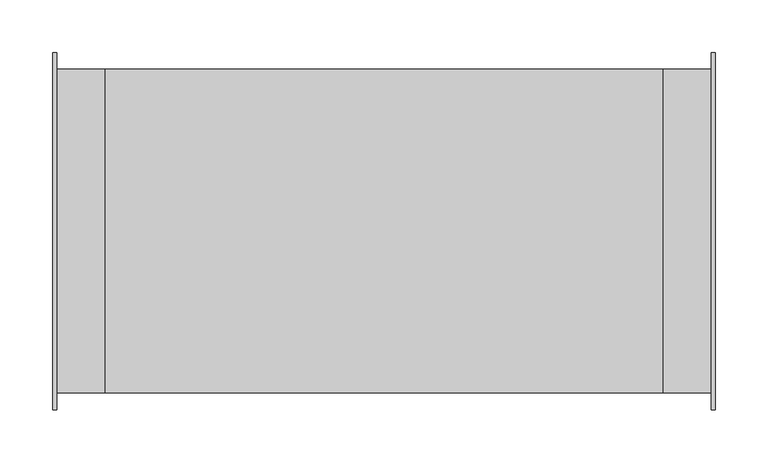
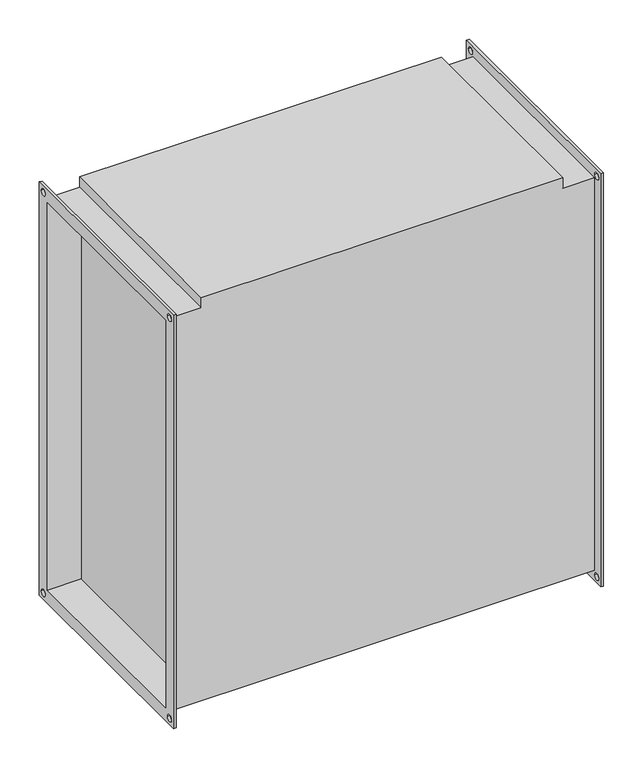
"""IFC4 building model written with IfcOpenShell, lengths in millimetres: proxy geometry, СВ_ВоздухонагревательЭлектрический_КанальныйПрямоугольный_200-1000_SPH-E : SPH-E-600x300/30."""

import ifcopenshell
import ifcopenshell.guid

model = None  # the IFC model being written
_history = None  # IfcOwnerHistory: only IFC2X3 demands one
_inside = {}  # id of a spatial element -> (the spatial element, [elements in it])
_under = {}  # id of a project, library or spatial element -> (it, [spatial elements below it])
_declared = {}  # id of a project -> (the project, [libraries it declares])
_typed = {}  # id of a type object -> (the type object, [elements of that type])
_made_of = {}  # id of a material, layer set ... -> (it, [elements and type objects made of it])


def new_model(schema):
    """Start an empty IFC model of exactly this schema.

    Asked for "IFC4X3", IfcOpenShell would pick the latest addendum, in which some entities
    have other attributes; the version numbers below select the first issue.
    IFC2X3 requires an IfcOwnerHistory on every rooted entity: one is made here for all.
    """
    global model, _history
    if schema == "IFC4X3":
        model = ifcopenshell.file(schema_version=(4, 3, 0, 0))
    else:
        model = ifcopenshell.file(schema=schema)
    _inside.clear()
    _under.clear()
    _declared.clear()
    _typed.clear()
    _made_of.clear()
    _history = None
    if model.schema == "IFC2X3":
        org = make("IfcOrganization", Name="unknown")
        user = make(
            "IfcPersonAndOrganization",
            ThePerson=make("IfcPerson", FamilyName="unknown"),
            TheOrganization=org,
        )
        app = make(
            "IfcApplication",
            ApplicationDeveloper=org,
            Version="unknown",
            ApplicationFullName="unknown",
            ApplicationIdentifier="unknown",
        )
        _history = make(
            "IfcOwnerHistory",
            OwningUser=user,
            OwningApplication=app,
            ChangeAction="ADDED",
            CreationDate=0,
        )
    return model


def make(cls, **values):
    """One entity of the class cls with the attributes given. An attribute that is None is left unset."""
    return model.create_entity(
        cls, **{name: value for name, value in values.items() if value is not None}
    )


def rooted(cls, **values):
    """An entity with a GlobalId (a new one), such as an element, a storey or a relation."""
    return make(cls, GlobalId=ifcopenshell.guid.new(), OwnerHistory=_history, **values)


def si_unit(unit_type, name, prefix=None):
    """IfcSIUnit, for example si_unit("LENGTHUNIT", "METRE", prefix="MILLI")."""
    return make("IfcSIUnit", UnitType=unit_type, Prefix=prefix, Name=name)


def assignment(units):
    """IfcUnitAssignment: the units of a project."""
    return None if units is None else make("IfcUnitAssignment", Units=units)


def point(xyz):
    """IfcCartesianPoint."""
    return None if xyz is None else make("IfcCartesianPoint", Coordinates=xyz)


def direction(xyz):
    """IfcDirection."""
    return None if xyz is None else make("IfcDirection", DirectionRatios=xyz)


def frame(location, z_axis=None, x_axis=None):
    """IfcAxis2Placement3D, a coordinate frame: its origin and axes. An axis left out is left unset."""
    return make(
        "IfcAxis2Placement3D",
        Location=point(location),
        Axis=direction(z_axis),
        RefDirection=direction(x_axis),
    )


def origin():
    """The frame at (0, 0, 0) with its axes left unset."""
    return frame((0.0, 0.0, 0.0))


def place(relative_to, where):
    """IfcLocalPlacement: puts the frame where relative to a parent placement (None: the world)."""
    return make(
        "IfcLocalPlacement", PlacementRelTo=relative_to, RelativePlacement=where
    )


def context(
    kind, dimensions, precision=None, world=None, true_north=None, identifier=None
):
    """IfcGeometricRepresentationContext, for example the 3D "Model" context."""
    return make(
        "IfcGeometricRepresentationContext",
        ContextIdentifier=identifier,
        ContextType=kind,
        CoordinateSpaceDimension=dimensions,
        Precision=precision,
        WorldCoordinateSystem=world,
        TrueNorth=true_north,
    )


def project(units=None, contexts=None):
    """IfcProject with its units and contexts."""
    return rooted(
        "IfcProject",
        Name="project",
        RepresentationContexts=contexts,
        UnitsInContext=assignment(units),
    )


def spatial(cls, under=None, at=None, **own):
    """A site, building, storey or space (cls), placed at a placement, below another one or the project."""
    s = rooted(cls, ObjectPlacement=at, **own)
    if under is not None:
        _under.setdefault(under.id(), (under, []))[1].append(s)
    return s


def polyline(points):
    """IfcPolyline through the points."""
    return make("IfcPolyline", Points=[point(p) for p in points])


def circle_curve(where, radius):
    """IfcCircle in the frame where."""
    return make("IfcCircle", Position=where, Radius=radius)


def shape(context_of_items, identifier, shape_type, items):
    """IfcShapeRepresentation: the items that make up one representation, for example the "Body"."""
    return make(
        "IfcShapeRepresentation",
        ContextOfItems=context_of_items,
        RepresentationIdentifier=identifier,
        RepresentationType=shape_type,
        Items=items,
    )


def source(mapping_origin, context_of_items, identifier, shape_type, items):
    """IfcRepresentationMap: a shape defined once, which mapped items show again and again."""
    return make(
        "IfcRepresentationMap",
        MappingOrigin=mapping_origin,
        MappedRepresentation=shape(context_of_items, identifier, shape_type, items),
    )


def transform(
    local_origin,
    x_axis=None,
    y_axis=None,
    z_axis=None,
    scale=None,
    scale2=None,
    scale3=None,
    uniform=True,
):
    """IfcCartesianTransformationOperator3D, or its non-uniform kind. x_axis, y_axis, z_axis: its Axis1, 2, 3."""
    if uniform:
        return make(
            "IfcCartesianTransformationOperator3D",
            Axis1=direction(x_axis),
            Axis2=direction(y_axis),
            LocalOrigin=point(local_origin),
            Scale=scale,
            Axis3=direction(z_axis),
        )
    return make(
        "IfcCartesianTransformationOperator3DnonUniform",
        Axis1=direction(x_axis),
        Axis2=direction(y_axis),
        LocalOrigin=point(local_origin),
        Scale=scale,
        Axis3=direction(z_axis),
        Scale2=scale2,
        Scale3=scale3,
    )


def mapped(mapping_source, mapping_target):
    """IfcMappedItem: shows the shape of a source again, moved by a transform."""
    return make(
        "IfcMappedItem", MappingSource=mapping_source, MappingTarget=mapping_target
    )


def made_of(thing, what):
    """Note that an element or type object is made of a material, layer set ...; save() writes the relation."""
    if what is not None:
        _made_of.setdefault(what.id(), (what, []))[1].append(thing)
    return thing


def element(
    cls,
    number,
    at=None,
    inside=None,
    cuts=None,
    type_object=None,
    material=None,
    context=None,
    identifier="Body",
    shape_type=None,
    held_by="IfcProductDefinitionShape",
    body=None,
    shapes=None,
    **own,
):
    """One element of the class cls, such as IfcWall. Its Tag is "e" and its number.

    at: its placement. inside: the storey or other place that contains it. cuts: it is an
    opening in that element (IfcRelVoidsElement). A single representation is given by context,
    identifier, shape_type and body (its items); several are given by shapes. held_by: the class
    of the entity that holds the representations. save() writes the other relations.
    """
    e = rooted(cls, Tag="e%d" % number, ObjectPlacement=at, **own)
    if body is not None:
        shapes = [shape(context, identifier, shape_type, body)]
    if shapes is not None:
        e.Representation = make(held_by, Representations=shapes)
    if inside is not None:
        _inside.setdefault(inside.id(), (inside, []))[1].append(e)
    if cuts is not None:
        rooted(
            "IfcRelVoidsElement", RelatingBuildingElement=cuts, RelatedOpeningElement=e
        )
    if type_object is not None:
        _typed.setdefault(type_object.id(), (type_object, []))[1].append(e)
    return made_of(e, material)


def aggregate(whole, parts):
    """IfcRelAggregates: a whole, such as a stair, and the parts it consists of."""
    return rooted("IfcRelAggregates", RelatingObject=whole, RelatedObjects=parts)


def save(model, path):
    """Write the relations noted so far, then the file.

    IfcRelAggregates (storeys below a building ...), IfcRelContainedInSpatialStructure (elements
    in a storey), IfcRelDefinesByType, IfcRelAssociatesMaterial and IfcRelDeclares: one each for
    every whole, place, type object, material and project.
    """
    for whole, parts in _under.values():
        aggregate(whole, parts)
    for where, things in _inside.values():
        rooted(
            "IfcRelContainedInSpatialStructure",
            RelatedElements=things,
            RelatingStructure=where,
        )
    for kind, things in _typed.values():
        rooted("IfcRelDefinesByType", RelatedObjects=things, RelatingType=kind)
    for what, things in _made_of.values():
        rooted("IfcRelAssociatesMaterial", RelatedObjects=things, RelatingMaterial=what)
    for by, libraries in _declared.values():
        rooted("IfcRelDeclares", RelatingContext=by, RelatedDefinitions=libraries)
    model.write(path)


def plane_surface(at):
    """IfcPlane: the flat surface through the origin of the frame at, square to its z axis."""
    return make("IfcPlane", Position=at)


def revolved_surface(curve, axis_point, axis_direction):
    """IfcSurfaceOfRevolution: the curve turned about the line through axis_point along axis_direction."""
    return make(
        "IfcSurfaceOfRevolution",
        SweptCurve=make("IfcArbitraryOpenProfileDef", ProfileType="CURVE", Curve=curve),
        AxisPosition=make("IfcAxis1Placement", Location=point(axis_point), Axis=direction(axis_direction)),
    )


def advanced_brep(points, edges, surfaces, faces):
    """IfcAdvancedBrep: a solid bounded by faces that lie on surfaces and meet in shared edges.

    An edge is (start, end): straight between two places in points (the first is 0);
    or (start, end, curve); or (start, end, curve, False) where it runs against its curve.
    A face is (place in surfaces, loops), or (place, loops, False) where it looks against
    its surface's normal. A loop lists edges by number (the first is 1), with a minus sign
    where the edge is run from its end to its start. The first loop is the outer one.
    """
    corners = [point(p) for p in points]
    vertices = [make("IfcVertexPoint", VertexGeometry=c) for c in corners]
    made = []
    for start, end, *more in edges:
        made.append(
            make(
                "IfcEdgeCurve",
                EdgeStart=vertices[start],
                EdgeEnd=vertices[end],
                EdgeGeometry=more[0] if more else make("IfcPolyline", Points=[corners[start], corners[end]]),
                SameSense=more[1] if len(more) > 1 else True,
            )
        )
    hull = []
    for where, loops, *sense in faces:
        bounds = []
        for j, loop in enumerate(loops):
            ring = [make("IfcOrientedEdge", EdgeElement=made[abs(k) - 1], Orientation=k > 0) for k in loop]
            bounds.append(
                make(
                    "IfcFaceOuterBound" if j == 0 else "IfcFaceBound",
                    Bound=make("IfcEdgeLoop", EdgeList=ring),
                    Orientation=True,
                )
            )
        hull.append(make("IfcAdvancedFace", Bounds=bounds, FaceSurface=surfaces[where], SameSense=sense[0] if sense else True))
    return make("IfcAdvancedBrep", Outer=make("IfcClosedShell", CfsFaces=hull))


def mechanical_equipment_15b2c1e0(model_context):
    return source(origin(), model_context, "Body", "AdvancedBrep", [
        advanced_brep(
        [(-265.0, -154.0, 304.0), (-311.0, -154.0, 304.0), (-311.0, -154.0, -304.0), (311.0, -154.0, -304.0), (311.0, -154.0, 304.0), (265.0, -154.0, 304.0), (265.0, -154.0, 320.0), (-265.0, -154.0, 320.0), (-311.0, 154.0, -304.0), (311.0, 154.0, -304.0), (-311.0, 154.0, 304.0), (-265.0, 154.0, 304.0), (-265.0, 154.0, 320.0), (265.0, 154.0, 320.0), (265.0, 154.0, 304.0), (311.0, 154.0, 304.0), (265.0, 150.0, -300.0), (265.0, 150.0, 300.0), (265.0, -150.0, 300.0), (265.0, -150.0, -300.0), (-265.0, -150.0, 300.0), (-265.0, 150.0, 300.0), (-265.0, 150.0, -300.0), (-265.0, -150.0, -300.0), (-315.0, -170.0, 320.0), (-315.0, 170.0, 320.0), (-315.0, 170.0, -320.0), (-315.0, -170.0, -320.0), (-315.0, -150.0, 300.0), (-315.0, -150.0, -300.0), (-315.0, 150.0, -300.0), (-315.0, 150.0, 300.0), (-315.0, 155.0, 310.0), (-315.0, 165.0, 310.0), (-315.0, -165.0, 310.0), (-315.0, -155.0, 310.0), (-315.0, -165.0, -310.0), (-315.0, -155.0, -310.0), (-315.0, 155.0, -310.0), (-315.0, 165.0, -310.0), (-311.0, -170.0, 320.0), (-311.0, -170.0, -320.0), (-311.0, 170.0, -320.0), (-311.0, 170.0, 320.0), (-311.0, 165.0, 310.0), (-311.0, 155.0, 310.0), (-311.0, -155.0, 310.0), (-311.0, -165.0, 310.0), (-311.0, -155.0, -310.0), (-311.0, -165.0, -310.0), (-311.0, 165.0, -310.0), (-311.0, 155.0, -310.0), (311.0, 170.0, 320.0), (311.0, 170.0, -320.0), (311.0, -170.0, -320.0), (311.0, -170.0, 320.0), (311.0, 155.0, 310.0), (311.0, 165.0, 310.0), (311.0, -165.0, 310.0), (311.0, -155.0, 310.0), (311.0, -165.0, -310.0), (311.0, -155.0, -310.0), (311.0, 155.0, -310.0), (311.0, 165.0, -310.0), (315.0, 170.0, 320.0), (315.0, -170.0, 320.0), (315.0, -170.0, -320.0), (315.0, 170.0, -320.0), (315.0, 150.0, 300.0), (315.0, 150.0, -300.0), (315.0, -150.0, -300.0), (315.0, -150.0, 300.0), (315.0, 165.0, 310.0), (315.0, 155.0, 310.0), (315.0, -155.0, 310.0), (315.0, -165.0, 310.0), (315.0, -155.0, -310.0), (315.0, -165.0, -310.0), (315.0, 165.0, -310.0), (315.0, 155.0, -310.0)],
        [
            (0, 1),
            (1, 2),
            (2, 3),
            (3, 4),
            (4, 5),
            (5, 6),
            (6, 7),
            (7, 0),
            (2, 8),
            (8, 9),
            (9, 3),
            (10, 11),
            (11, 12),
            (12, 13),
            (13, 14),
            (14, 15),
            (15, 9),
            (8, 10),
            (0, 11),
            (10, 1),
            (13, 6),
            (5, 14),
            (16, 17),
            (17, 18),
            (18, 19),
            (19, 16),
            (7, 12),
            (20, 21),
            (21, 22),
            (22, 23),
            (23, 20),
            (4, 15),
            (24, 25),
            (25, 26),
            (26, 27),
            (27, 24),
            (28, 29),
            (29, 30),
            (30, 31),
            (31, 28),
            (32, 33, circle_curve(frame((-315.0, 160.0, 310.0), z_axis=(1.0, 0.0, 0.0), x_axis=(0.0, 1.0, 0.0)), 5.0)),
            (33, 32, circle_curve(frame((-315.0, 160.0, 310.0), z_axis=(1.0, 0.0, 0.0), x_axis=(0.0, 1.0, 0.0)), 5.0)),
            (34, 35, circle_curve(frame((-315.0, -160.0, 310.0), z_axis=(1.0, 0.0, 0.0), x_axis=(0.0, 1.0, 0.0)), 5.0)),
            (35, 34, circle_curve(frame((-315.0, -160.0, 310.0), z_axis=(1.0, 0.0, 0.0), x_axis=(0.0, 1.0, 0.0)), 5.0)),
            (36, 37, circle_curve(frame((-315.0, -160.0, -310.0), z_axis=(1.0, 0.0, 0.0), x_axis=(0.0, 1.0, 0.0)), 5.0)),
            (37, 36, circle_curve(frame((-315.0, -160.0, -310.0), z_axis=(1.0, 0.0, 0.0), x_axis=(0.0, 1.0, 0.0)), 5.0)),
            (38, 39, circle_curve(frame((-315.0, 160.0, -310.0), z_axis=(1.0, 0.0, 0.0), x_axis=(0.0, 1.0, 0.0)), 5.0)),
            (39, 38, circle_curve(frame((-315.0, 160.0, -310.0), z_axis=(1.0, 0.0, 0.0), x_axis=(0.0, 1.0, 0.0)), 5.0)),
            (40, 41),
            (41, 42),
            (42, 43),
            (43, 40),
            (44, 45, circle_curve(frame((-311.0, 160.0, 310.0), z_axis=(-1.0, 0.0, 0.0), x_axis=(0.0, 1.0, 0.0)), 5.0)),
            (45, 44, circle_curve(frame((-311.0, 160.0, 310.0), z_axis=(-1.0, 0.0, 0.0), x_axis=(0.0, 1.0, 0.0)), 5.0)),
            (46, 47, circle_curve(frame((-311.0, -160.0, 310.0), z_axis=(-1.0, 0.0, 0.0), x_axis=(0.0, 1.0, 0.0)), 5.0)),
            (47, 46, circle_curve(frame((-311.0, -160.0, 310.0), z_axis=(-1.0, 0.0, 0.0), x_axis=(0.0, 1.0, 0.0)), 5.0)),
            (48, 49, circle_curve(frame((-311.0, -160.0, -310.0), z_axis=(-1.0, 0.0, 0.0), x_axis=(0.0, 1.0, 0.0)), 5.0)),
            (49, 48, circle_curve(frame((-311.0, -160.0, -310.0), z_axis=(-1.0, 0.0, 0.0), x_axis=(0.0, 1.0, 0.0)), 5.0)),
            (50, 51, circle_curve(frame((-311.0, 160.0, -310.0), z_axis=(-1.0, 0.0, 0.0), x_axis=(0.0, 1.0, 0.0)), 5.0)),
            (51, 50, circle_curve(frame((-311.0, 160.0, -310.0), z_axis=(-1.0, 0.0, 0.0), x_axis=(0.0, 1.0, 0.0)), 5.0)),
            (27, 41),
            (40, 24),
            (26, 42),
            (25, 43),
            (52, 53),
            (53, 54),
            (54, 55),
            (55, 52),
            (56, 57, circle_curve(frame((311.0, 160.0, 310.0), z_axis=(1.0, 0.0, 0.0), x_axis=(0.0, 1.0, 0.0)), 5.0)),
            (57, 56, circle_curve(frame((311.0, 160.0, 310.0), z_axis=(1.0, 0.0, 0.0), x_axis=(0.0, 1.0, 0.0)), 5.0)),
            (58, 59, circle_curve(frame((311.0, -160.0, 310.0), z_axis=(1.0, 0.0, 0.0), x_axis=(0.0, 1.0, 0.0)), 5.0)),
            (59, 58, circle_curve(frame((311.0, -160.0, 310.0), z_axis=(1.0, 0.0, 0.0), x_axis=(0.0, 1.0, 0.0)), 5.0)),
            (60, 61, circle_curve(frame((311.0, -160.0, -310.0), z_axis=(1.0, 0.0, 0.0), x_axis=(0.0, 1.0, 0.0)), 5.0)),
            (61, 60, circle_curve(frame((311.0, -160.0, -310.0), z_axis=(1.0, 0.0, 0.0), x_axis=(0.0, 1.0, 0.0)), 5.0)),
            (62, 63, circle_curve(frame((311.0, 160.0, -310.0), z_axis=(1.0, 0.0, 0.0), x_axis=(0.0, 1.0, 0.0)), 5.0)),
            (63, 62, circle_curve(frame((311.0, 160.0, -310.0), z_axis=(1.0, 0.0, 0.0), x_axis=(0.0, 1.0, 0.0)), 5.0)),
            (64, 65),
            (65, 66),
            (66, 67),
            (67, 64),
            (68, 69),
            (69, 70),
            (70, 71),
            (71, 68),
            (72, 73, circle_curve(frame((315.0, 160.0, 310.0), z_axis=(-1.0, 0.0, 0.0), x_axis=(0.0, 1.0, 0.0)), 5.0)),
            (73, 72, circle_curve(frame((315.0, 160.0, 310.0), z_axis=(-1.0, 0.0, 0.0), x_axis=(0.0, 1.0, 0.0)), 5.0)),
            (74, 75, circle_curve(frame((315.0, -160.0, 310.0), z_axis=(-1.0, 0.0, 0.0), x_axis=(0.0, 1.0, 0.0)), 5.0)),
            (75, 74, circle_curve(frame((315.0, -160.0, 310.0), z_axis=(-1.0, 0.0, 0.0), x_axis=(0.0, 1.0, 0.0)), 5.0)),
            (76, 77, circle_curve(frame((315.0, -160.0, -310.0), z_axis=(-1.0, 0.0, 0.0), x_axis=(0.0, 1.0, 0.0)), 5.0)),
            (77, 76, circle_curve(frame((315.0, -160.0, -310.0), z_axis=(-1.0, 0.0, 0.0), x_axis=(0.0, 1.0, 0.0)), 5.0)),
            (78, 79, circle_curve(frame((315.0, 160.0, -310.0), z_axis=(-1.0, 0.0, 0.0), x_axis=(0.0, 1.0, 0.0)), 5.0)),
            (79, 78, circle_curve(frame((315.0, 160.0, -310.0), z_axis=(-1.0, 0.0, 0.0), x_axis=(0.0, 1.0, 0.0)), 5.0)),
            (55, 65),
            (64, 52),
            (54, 66),
            (53, 67),
            (31, 21),
            (20, 28),
            (30, 22),
            (29, 23),
            (68, 17),
            (16, 69),
            (19, 70),
            (18, 71),
            (32, 45),
            (44, 33),
            (56, 73),
            (72, 57),
            (34, 47),
            (46, 35),
            (58, 75),
            (74, 59),
            (36, 49),
            (48, 37),
            (60, 77),
            (76, 61),
            (38, 51),
            (50, 39),
            (62, 79),
            (78, 63),
        ],
        [
            plane_surface(frame((-265.0, -154.0, 304.0), z_axis=(0.0, -1.0, 0.0), x_axis=(-1.0, 0.0, 0.0))),
            plane_surface(frame((-265.0, -154.0, -304.0), z_axis=(0.0, 0.0, -1.0), x_axis=(-1.0, 0.0, 0.0))),
            plane_surface(frame((-265.0, 154.0, -304.0), z_axis=(0.0, 1.0, 0.0), x_axis=(-1.0, 0.0, 0.0))),
            plane_surface(frame((-265.0, 154.0, 304.0), z_axis=(0.0, 0.0, 1.0), x_axis=(-1.0, 0.0, 0.0))),
            plane_surface(frame((265.0, -154.0, 320.0), z_axis=(1.0, 0.0, 0.0), x_axis=(0.0, 0.0, -1.0))),
            plane_surface(frame((-265.0, -154.0, 320.0), z_axis=(-1.0, 0.0, 0.0), x_axis=(0.0, 0.0, 1.0))),
            plane_surface(frame((265.0, 154.0, 320.0), z_axis=(0.0, 0.0, 1.0), x_axis=(-1.0, 0.0, 0.0))),
            plane_surface(frame((311.0, 154.0, 304.0), z_axis=(0.0, 0.0, 1.0), x_axis=(-1.0, 0.0, 0.0))),
            plane_surface(frame((-315.0, -170.0, 320.0), z_axis=(-1.0, 0.0, 0.0), x_axis=(0.0, 0.0, 1.0))),
            plane_surface(frame((-311.0, -170.0, 320.0), z_axis=(1.0, 0.0, 0.0), x_axis=(0.0, 0.0, -1.0))),
            plane_surface(frame((-311.0, -170.0, 320.0), z_axis=(0.0, -1.0, 0.0), x_axis=(-1.0, 0.0, 0.0))),
            plane_surface(frame((-311.0, -170.0, -320.0), z_axis=(0.0, 0.0, -1.0), x_axis=(-1.0, 0.0, 0.0))),
            plane_surface(frame((-311.0, 170.0, -320.0), z_axis=(0.0, 1.0, 0.0), x_axis=(-1.0, 0.0, 0.0))),
            plane_surface(frame((-311.0, 170.0, 320.0), z_axis=(0.0, 0.0, 1.0), x_axis=(-1.0, 0.0, 0.0))),
            plane_surface(frame((311.0, 150.0, -300.0), z_axis=(-1.0, 0.0, 0.0), x_axis=(0.0, 0.0, 1.0))),
            plane_surface(frame((315.0, 150.0, -300.0), z_axis=(1.0, 0.0, 0.0), x_axis=(0.0, 0.0, -1.0))),
            plane_surface(frame((315.0, 170.0, 320.0), z_axis=(0.0, 0.0, 1.0), x_axis=(-1.0, 0.0, 0.0))),
            plane_surface(frame((315.0, -170.0, 320.0), z_axis=(0.0, -1.0, 0.0), x_axis=(-1.0, 0.0, 0.0))),
            plane_surface(frame((315.0, -170.0, -320.0), z_axis=(0.0, 0.0, -1.0), x_axis=(-1.0, 0.0, 0.0))),
            plane_surface(frame((315.0, 170.0, -320.0), z_axis=(0.0, 1.0, 0.0), x_axis=(-1.0, 0.0, 0.0))),
            plane_surface(frame((-311.0, -150.0, 300.0), z_axis=(0.0, 0.0, -1.0), x_axis=(-1.0, 0.0, 0.0))),
            plane_surface(frame((-311.0, 150.0, 300.0), z_axis=(0.0, -1.0, 0.0), x_axis=(-1.0, 0.0, 0.0))),
            plane_surface(frame((-311.0, 150.0, -300.0), z_axis=(0.0, 0.0, 1.0), x_axis=(-1.0, 0.0, 0.0))),
            plane_surface(frame((-311.0, -150.0, -300.0), z_axis=(0.0, 1.0, 0.0), x_axis=(-1.0, 0.0, 0.0))),
            plane_surface(frame((315.0, 150.0, 300.0), z_axis=(0.0, -1.0, 0.0), x_axis=(-1.0, 0.0, 0.0))),
            plane_surface(frame((315.0, 150.0, -300.0), z_axis=(0.0, 0.0, 1.0), x_axis=(-1.0, 0.0, 0.0))),
            plane_surface(frame((315.0, -150.0, -300.0), z_axis=(0.0, 1.0, 0.0), x_axis=(-1.0, 0.0, 0.0))),
            plane_surface(frame((315.0, -150.0, 300.0), z_axis=(0.0, 0.0, -1.0), x_axis=(-1.0, 0.0, 0.0))),
            revolved_surface(polyline([(-311.0, 165.0, 310.0), (-315.0, 165.0, 310.0)]), (-315.0, 160.0, 310.0), (1.0, 0.0, 0.0)),
            revolved_surface(polyline([(315.0, 165.0, 310.0), (311.0, 165.0, 310.0)]), (-315.0, 160.0, 310.0), (1.0, 0.0, 0.0)),
            revolved_surface(polyline([(-311.0, -155.0, 310.0), (-315.0, -155.0, 310.0)]), (0.0, -160.0, 310.0), (1.0, 0.0, 0.0)),
            revolved_surface(polyline([(315.0, -155.0, 310.0), (311.0, -155.0, 310.0)]), (0.0, -160.0, 310.0), (1.0, 0.0, 0.0)),
            revolved_surface(polyline([(-311.0, -155.0, -310.0), (-315.0, -155.0, -310.0)]), (0.0, -160.0, -310.0), (1.0, 0.0, 0.0)),
            revolved_surface(polyline([(315.0, -155.0, -310.0), (311.0, -155.0, -310.0)]), (0.0, -160.0, -310.0), (1.0, 0.0, 0.0)),
            revolved_surface(polyline([(-311.0, 165.0, -310.0), (-315.0, 165.0, -310.0)]), (0.0, 160.0, -310.0), (1.0, 0.0, 0.0)),
            revolved_surface(polyline([(315.0, 165.0, -310.0), (311.0, 165.0, -310.0)]), (0.0, 160.0, -310.0), (1.0, 0.0, 0.0)),
        ],
        [
            (0, [[1, 2, 3, 4, 5, 6, 7, 8]]),
            (1, [[-3, 9, 10, 11]]),
            (2, [[12, 13, 14, 15, 16, 17, -10, 18]]),
            (3, [[-1, 19, -12, 20]]),
            (4, [[21, -6, 22, -15]]),
            (4, [[23, 24, 25, 26]]),
            (5, [[27, -13, -19, -8]]),
            (5, [[28, 29, 30, 31]]),
            (6, [[-21, -14, -27, -7]]),
            (7, [[-5, 32, -16, -22]]),
            (8, [[33, 34, 35, 36], [37, 38, 39, 40], [41, 42], [43, 44], [45, 46], [47, 48]]),
            (9, [[49, 50, 51, 52], [-2, -20, -18, -9], [53, 54], [55, 56], [57, 58], [59, 60]]),
            (10, [[-36, 61, -49, 62]]),
            (11, [[-35, 63, -50, -61]]),
            (12, [[-34, 64, -51, -63]]),
            (13, [[-33, -62, -52, -64]]),
            (14, [[65, 66, 67, 68], [-4, -11, -17, -32], [69, 70], [71, 72], [73, 74], [75, 76]]),
            (15, [[77, 78, 79, 80], [81, 82, 83, 84], [85, 86], [87, 88], [89, 90], [91, 92]]),
            (16, [[-68, 93, -77, 94]]),
            (17, [[-67, 95, -78, -93]]),
            (18, [[-66, 96, -79, -95]]),
            (19, [[-65, -94, -80, -96]]),
            (20, [[-40, 97, -28, 98]]),
            (21, [[-39, 99, -29, -97]]),
            (22, [[-38, 100, -30, -99]]),
            (23, [[-37, -98, -31, -100]]),
            (24, [[-81, 101, -23, 102]]),
            (25, [[-82, -102, -26, 103]]),
            (26, [[-83, -103, -25, 104]]),
            (27, [[-101, -84, -104, -24]]),
            (28, [[105, -53, 106, -41]]),
            (29, [[107, -85, 108, -69]]),
            (28, [[-105, -42, -106, -54]]),
            (29, [[-107, -70, -108, -86]]),
            (30, [[109, -55, 110, -43]]),
            (31, [[111, -87, 112, -71]]),
            (30, [[-109, -44, -110, -56]]),
            (31, [[-111, -72, -112, -88]]),
            (32, [[113, -57, 114, -45]]),
            (33, [[115, -89, 116, -73]]),
            (32, [[-113, -46, -114, -58]]),
            (33, [[-115, -74, -116, -90]]),
            (34, [[117, -59, 118, -47]]),
            (35, [[119, -91, 120, -75]]),
            (34, [[-117, -48, -118, -60]]),
            (35, [[-119, -76, -120, -92]]),
        ],
    ),
    ])


if __name__ == "__main__":
    model = new_model("IFC4")
    model_context = context("Model", 3, world=origin())
    ifc_project = project(units=[si_unit("LENGTHUNIT", "METRE", prefix="MILLI")], contexts=[model_context])
    site = spatial("IfcSite", under=ifc_project)
    building = spatial("IfcBuilding", under=site)
    placement = place(None, origin())
    mechanical_equipment_shape = mechanical_equipment_15b2c1e0(model_context)
    element("IfcBuildingElementProxy", 1, Name="СВ_ВоздухонагревательЭлектрический_КанальныйПрямоугольный_200-1000_SPH-E : SPH-E-600x300/30", ObjectType="СВ_ВоздухонагревательЭлектрический_КанальныйПрямоугольный_200-1000_SPH-E : SPH-E-600x300/30", at=placement, inside=building, context=model_context, shape_type="MappedRepresentation", body=[
        mapped(mechanical_equipment_shape, transform((0.0, 0.0, 0.0), x_axis=(1.0, 0.0, 0.0), y_axis=(0.0, 1.0, 0.0), z_axis=(0.0, 0.0, 1.0))),
    ])
    save(model, "model.ifc")
